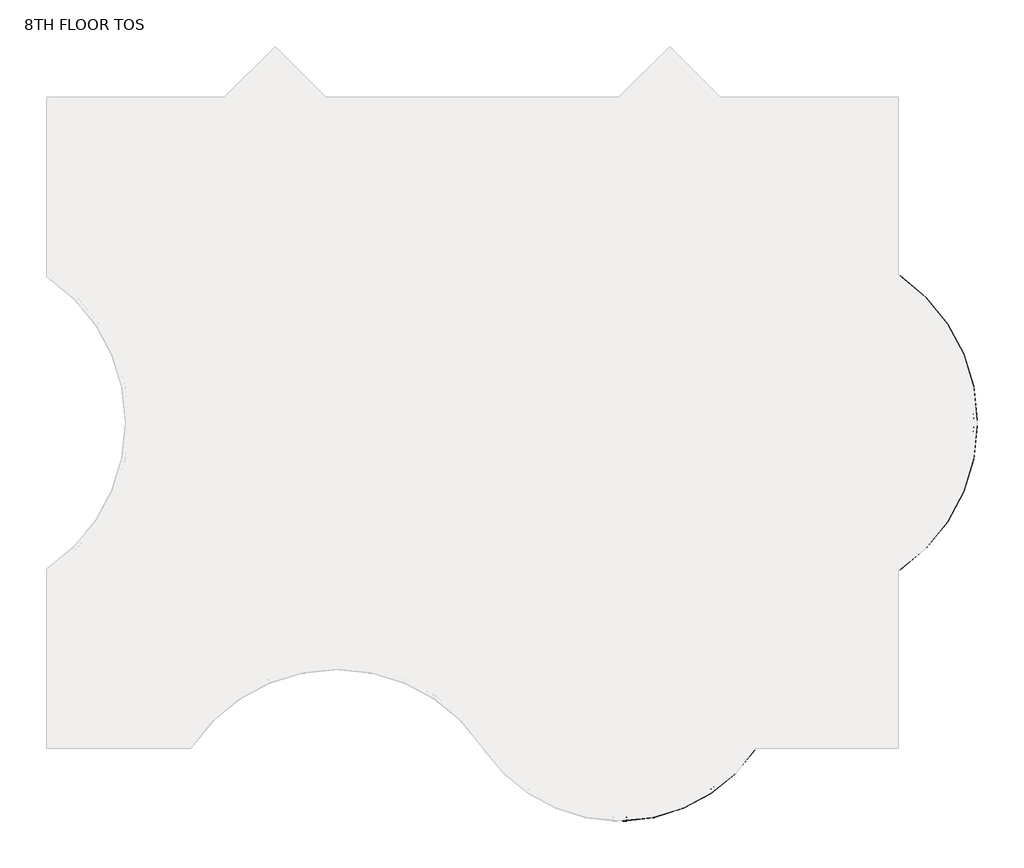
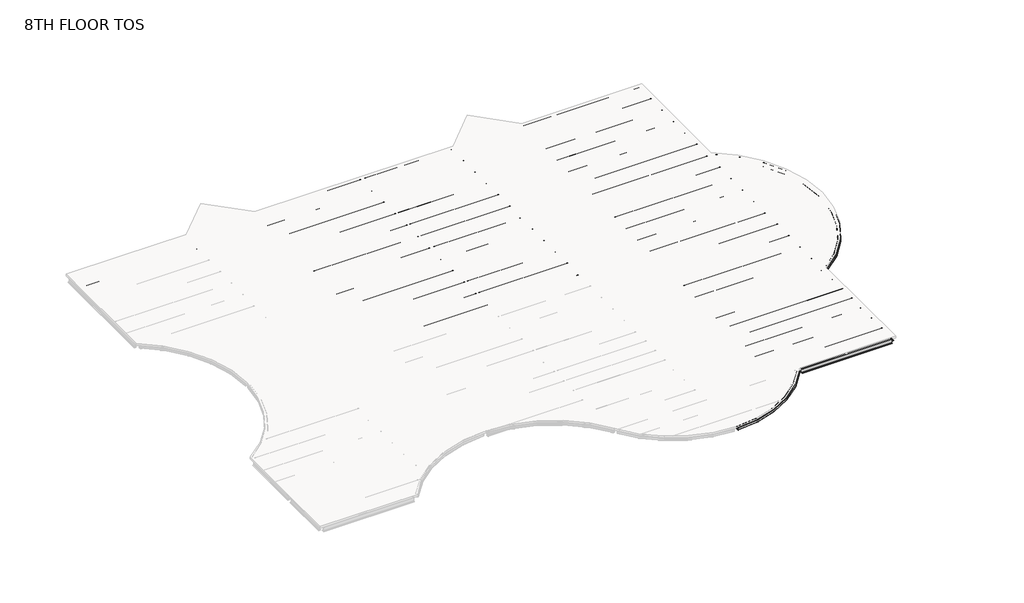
# One storey, part 2 of 2: 110 beams.
"""IFC4 building model written with IfcOpenShell, lengths in millimetres."""

from ifc_helpers import new_model, si_unit, origin, place, context, project, spatial, transform, mapped, element, save
from components import m_hss_square_hss203_2x203_2x9_5_28e91a4e, m_hss_square_hss203_2x203_2x9_5_f31329aa, m_hss_square_hss203_2x203_2x9_5_63507dff, ub_universal_beams_ub254x102x28_7812688d, ub_universal_beams_ub254x102x28_4a38c177, ub_universal_beams_ub305x165x40_c4d0385b, ub_universal_beams_ub305x165x40_19965e16, ub_universal_beams_ub305x165x40_d3abc31d, ub_universal_beams_ub305x165x40_0c73730f, ub_universal_beams_ub305x165x40_2a963f0c, ub_universal_beams_ub305x165x40_9ce7f2ee, ub_universal_beams_ub305x165x40_d184adfd, ub_universal_beams_ub305x165x40_bc7dc938, ub_universal_beams_ub305x165x40_b4233d25, ub_universal_beams_ub356x171x51_c708c058, ub_universal_beams_ub356x171x51_ef72dcdd, ub_universal_beams_ub356x171x51_10b3c54f, ub_universal_beams_ub356x171x51_4c9fd821, ub_universal_beams_ub356x171x51_d1a87c3c, ub_universal_beams_ub356x171x51_fa75724b, ub_universal_beams_ub356x171x51_68db896e, ub_universal_beams_ub356x171x51_c634c4a6, ub_universal_beams_ub356x171x51_995f1560, ub_universal_beams_ub356x171x51_dfc36663, ub_universal_beams_ub356x171x51_11d6b780, ub_universal_beams_ub356x171x51_76b2d20b, ub_universal_beams_ub356x171x51_145ecd4b, ub_universal_beams_ub356x171x51_c7dff8d2, ub_universal_beams_ub356x171x51_8a345439, ub_universal_beams_ub356x171x51_6da510e9, ub_universal_beams_ub356x171x51_e97f8d2e, ub_universal_beams_ub356x171x51_a38b99de, ub_universal_beams_ub356x171x51_d8f4cdde, ub_universal_beams_ub356x171x51_475301e6, ub_universal_beams_ub356x171x51_c03c70fb, ub_universal_beams_ub356x171x51_741bae58

model = new_model("IFC4")

# Units and contexts
model_context = context("Model", 3, world=origin())
ifc_project = project(units=[si_unit("LENGTHUNIT", "METRE", prefix="MILLI")], contexts=[model_context])

# Site, building, storey
site = spatial("IfcSite", under=ifc_project)
building = spatial("IfcBuilding", under=site)
storey = spatial("IfcBuildingStorey", under=building, Name="8TH FLOOR TOS", Elevation=36423.6)

# Beams
placement = place(None, origin())
m_hss_square_hss203_2x203_2x9_5_shape = m_hss_square_hss203_2x203_2x9_5_28e91a4e(model_context)
element("IfcBeam", 1, ObjectType="M_HSS Square : HSS203.2X203.2X9.5", at=placement, inside=storey, context=model_context, shape_type="MappedRepresentation", body=[
    mapped(m_hss_square_hss203_2x203_2x9_5_shape, transform((44027.575, 24539.575, 36322.1), x_axis=(0.8332810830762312, -0.5528495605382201, 0.0), y_axis=(0.5528495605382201, 0.8332810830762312, 0.0), z_axis=(0.0, 0.0, 1.0))),
])
m_hss_square_hss203_2x203_2x9_5_2_shape = m_hss_square_hss203_2x203_2x9_5_f31329aa(model_context)
element("IfcBeam", 2, ObjectType="M_HSS Square : HSS203.2X203.2X9.5", at=placement, inside=storey, context=model_context, shape_type="MappedRepresentation", body=[
    mapped(m_hss_square_hss203_2x203_2x9_5_2_shape, transform((44027.575, 9299.575, 36322.1), x_axis=(0.8332810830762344, 0.5528495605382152, 0.0), y_axis=(-0.5528495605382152, 0.8332810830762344, 0.0), z_axis=(0.0, 0.0, 1.0))),
])
m_hss_square_hss203_2x203_2x9_5_3_shape = m_hss_square_hss203_2x203_2x9_5_63507dff(model_context)
element("IfcBeam", 3, ObjectType="M_HSS Square : HSS203.2X203.2X9.5", at=placement, inside=storey, context=model_context, shape_type="MappedRepresentation", body=[
    mapped(m_hss_square_hss203_2x203_2x9_5_3_shape, transform((36716.575, 155.575, 36322.1), x_axis=(-0.5530174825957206, -0.8331696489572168, 0.0), y_axis=(0.8331696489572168, -0.5530174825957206, 0.0), z_axis=(0.0, 0.0, 1.0))),
])
ub_universal_beams_ub254x102x28_shape = ub_universal_beams_ub254x102x28_7812688d(model_context)
element("IfcBeam", 4, ObjectType="UB-Universal Beams : UB254x102x28", at=placement, inside=storey, context=model_context, shape_type="MappedRepresentation", body=[
    mapped(ub_universal_beams_ub254x102x28_shape, transform((10592.575, 34976.575, 36293.4), x_axis=(0.7071067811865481, 0.7071067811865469, 0.0), y_axis=(-0.7071067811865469, 0.7071067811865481, 0.0), z_axis=(0.0, 0.0, 1.0))),
])
element("IfcBeam", 5, ObjectType="UB-Universal Beams : UB254x102x28", at=placement, inside=storey, context=model_context, shape_type="MappedRepresentation", body=[
    mapped(ub_universal_beams_ub254x102x28_shape, transform((31004.575, 34976.575, 36293.4), x_axis=(0.7071067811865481, 0.7071067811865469, 0.0), y_axis=(-0.7071067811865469, 0.7071067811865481, 0.0), z_axis=(0.0, 0.0, 1.0))),
])
ub_universal_beams_ub254x102x28_2_shape = ub_universal_beams_ub254x102x28_4a38c177(model_context)
element("IfcBeam", 6, ObjectType="UB-Universal Beams : UB254x102x28", at=placement, inside=storey, context=model_context, shape_type="MappedRepresentation", body=[
    mapped(ub_universal_beams_ub254x102x28_2_shape, transform((13178.575, 34976.575, 36293.4), x_axis=(0.707106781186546, -0.707106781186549, 0.0), y_axis=(0.707106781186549, 0.707106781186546, 0.0), z_axis=(0.0, 0.0, 1.0))),
])
element("IfcBeam", 7, ObjectType="UB-Universal Beams : UB254x102x28", at=placement, inside=storey, context=model_context, shape_type="MappedRepresentation", body=[
    mapped(ub_universal_beams_ub254x102x28_2_shape, transform((33590.575, 34976.575, 36293.4), x_axis=(0.7071067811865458, -0.7071067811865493, 0.0), y_axis=(0.7071067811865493, 0.7071067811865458, 0.0), z_axis=(0.0, 0.0, 1.0))),
])
ub_universal_beams_ub305x165x40_shape = ub_universal_beams_ub305x165x40_c4d0385b(model_context)
element("IfcBeam", 8, ObjectType="UB-Universal Beams : UB305x165x40", at=placement, inside=storey, context=model_context, shape_type="MappedRepresentation", body=[
    mapped(ub_universal_beams_ub305x165x40_shape, transform((4727.575, 32159.575, 36271.9), x_axis=(1.0, 0.0, 0.0), y_axis=(0.0, 1.0, 0.0), z_axis=(0.0, 0.0, 1.0))),
])
element("IfcBeam", 9, ObjectType="UB-Universal Beams : UB305x165x40", at=placement, inside=storey, context=model_context, shape_type="MappedRepresentation", body=[
    mapped(ub_universal_beams_ub305x165x40_shape, transform((39455.575, 32159.575, 36271.9), x_axis=(1.0, 0.0, 0.0), y_axis=(0.0, 1.0, 0.0), z_axis=(0.0, 0.0, 1.0))),
])
element("IfcBeam", 10, ObjectType="UB-Universal Beams : UB305x165x40", at=placement, inside=storey, context=model_context, shape_type="MappedRepresentation", body=[
    mapped(ub_universal_beams_ub305x165x40_shape, transform((39455.575, 30635.575, 36271.9), x_axis=(1.0, 0.0, 0.0), y_axis=(0.0, 1.0, 0.0), z_axis=(0.0, 0.0, 1.0))),
])
element("IfcBeam", 11, ObjectType="UB-Universal Beams : UB305x165x40", at=placement, inside=storey, context=model_context, shape_type="MappedRepresentation", body=[
    mapped(ub_universal_beams_ub305x165x40_shape, transform((39455.575, 29111.575, 36271.9), x_axis=(1.0, 0.0, 0.0), y_axis=(0.0, 1.0, 0.0), z_axis=(0.0, 0.0, 1.0))),
])
element("IfcBeam", 12, ObjectType="UB-Universal Beams : UB305x165x40", at=placement, inside=storey, context=model_context, shape_type="MappedRepresentation", body=[
    mapped(ub_universal_beams_ub305x165x40_shape, transform((39455.575, 27587.575, 36271.9), x_axis=(1.0, 0.0, 0.0), y_axis=(0.0, 1.0, 0.0), z_axis=(0.0, 0.0, 1.0))),
])
element("IfcBeam", 13, ObjectType="UB-Universal Beams : UB305x165x40", at=placement, inside=storey, context=model_context, shape_type="MappedRepresentation", body=[
    mapped(ub_universal_beams_ub305x165x40_shape, transform((39455.575, 26063.575, 36271.9), x_axis=(1.0, 0.0, 0.0), y_axis=(0.0, 1.0, 0.0), z_axis=(0.0, 0.0, 1.0))),
])
element("IfcBeam", 14, ObjectType="UB-Universal Beams : UB305x165x40", at=placement, inside=storey, context=model_context, shape_type="MappedRepresentation", body=[
    mapped(ub_universal_beams_ub305x165x40_shape, transform((39455.575, 23015.575, 36271.9), x_axis=(1.0, 0.0, 0.0), y_axis=(0.0, 1.0, 0.0), z_axis=(0.0, 0.0, 1.0))),
])
element("IfcBeam", 15, ObjectType="UB-Universal Beams : UB305x165x40", at=placement, inside=storey, context=model_context, shape_type="MappedRepresentation", body=[
    mapped(ub_universal_beams_ub305x165x40_shape, transform((39455.575, 21491.575, 36271.9), x_axis=(1.0, 0.0, 0.0), y_axis=(0.0, 1.0, 0.0), z_axis=(0.0, 0.0, 1.0))),
])
element("IfcBeam", 16, ObjectType="UB-Universal Beams : UB305x165x40", at=placement, inside=storey, context=model_context, shape_type="MappedRepresentation", body=[
    mapped(ub_universal_beams_ub305x165x40_shape, transform((39455.575, 19967.575, 36271.9), x_axis=(1.0, 0.0, 0.0), y_axis=(0.0, 1.0, 0.0), z_axis=(0.0, 0.0, 1.0))),
])
element("IfcBeam", 17, ObjectType="UB-Universal Beams : UB305x165x40", at=placement, inside=storey, context=model_context, shape_type="MappedRepresentation", body=[
    mapped(ub_universal_beams_ub305x165x40_shape, transform((39455.575, 18443.575, 36271.9), x_axis=(1.0, 0.0, 0.0), y_axis=(0.0, 1.0, 0.0), z_axis=(0.0, 0.0, 1.0))),
])
element("IfcBeam", 18, ObjectType="UB-Universal Beams : UB305x165x40", at=placement, inside=storey, context=model_context, shape_type="MappedRepresentation", body=[
    mapped(ub_universal_beams_ub305x165x40_shape, transform((39455.575, 15395.575, 36271.9), x_axis=(1.0, 0.0, 0.0), y_axis=(0.0, 1.0, 0.0), z_axis=(0.0, 0.0, 1.0))),
])
element("IfcBeam", 19, ObjectType="UB-Universal Beams : UB305x165x40", at=placement, inside=storey, context=model_context, shape_type="MappedRepresentation", body=[
    mapped(ub_universal_beams_ub305x165x40_shape, transform((39455.575, 13871.575, 36271.9), x_axis=(1.0, 0.0, 0.0), y_axis=(0.0, 1.0, 0.0), z_axis=(0.0, 0.0, 1.0))),
])
element("IfcBeam", 20, ObjectType="UB-Universal Beams : UB305x165x40", at=placement, inside=storey, context=model_context, shape_type="MappedRepresentation", body=[
    mapped(ub_universal_beams_ub305x165x40_shape, transform((39455.575, 12347.575, 36271.9), x_axis=(1.0, 0.0, 0.0), y_axis=(0.0, 1.0, 0.0), z_axis=(0.0, 0.0, 1.0))),
])
element("IfcBeam", 21, ObjectType="UB-Universal Beams : UB305x165x40", at=placement, inside=storey, context=model_context, shape_type="MappedRepresentation", body=[
    mapped(ub_universal_beams_ub305x165x40_shape, transform((39455.575, 10823.575, 36271.9), x_axis=(1.0, 0.0, 0.0), y_axis=(0.0, 1.0, 0.0), z_axis=(0.0, 0.0, 1.0))),
])
element("IfcBeam", 22, ObjectType="UB-Universal Beams : UB305x165x40", at=placement, inside=storey, context=model_context, shape_type="MappedRepresentation", body=[
    mapped(ub_universal_beams_ub305x165x40_shape, transform((39455.575, 5508.325, 36271.9), x_axis=(-1.0, 0.0, 0.0), y_axis=(0.0, -1.0, 0.0), z_axis=(0.0, 0.0, 1.0))),
])
element("IfcBeam", 23, ObjectType="UB-Universal Beams : UB305x165x40", at=placement, inside=storey, context=model_context, shape_type="MappedRepresentation", body=[
    mapped(ub_universal_beams_ub305x165x40_shape, transform((39455.575, 6772.075, 36271.9), x_axis=(-1.0, 0.0, 0.0), y_axis=(0.0, -1.0, 0.0), z_axis=(0.0, 0.0, 1.0))),
])
element("IfcBeam", 24, ObjectType="UB-Universal Beams : UB305x165x40", at=placement, inside=storey, context=model_context, shape_type="MappedRepresentation", body=[
    mapped(ub_universal_beams_ub305x165x40_shape, transform((39455.575, 8035.825, 36271.9), x_axis=(-1.0, 0.0, 0.0), y_axis=(0.0, -1.0, 0.0), z_axis=(0.0, 0.0, 1.0))),
])
element("IfcBeam", 25, ObjectType="UB-Universal Beams : UB305x165x40", at=placement, inside=storey, context=model_context, shape_type="MappedRepresentation", body=[
    mapped(ub_universal_beams_ub305x165x40_shape, transform((39455.575, 1518.575, 36271.9), x_axis=(-1.0, 0.0, 0.0), y_axis=(0.0, -1.0, 0.0), z_axis=(0.0, 0.0, 1.0))),
])
element("IfcBeam", 26, ObjectType="UB-Universal Beams : UB305x165x40", at=placement, inside=storey, context=model_context, shape_type="MappedRepresentation", body=[
    mapped(ub_universal_beams_ub305x165x40_shape, transform((39455.575, 2881.575, 36271.9), x_axis=(-1.0, 0.0, 0.0), y_axis=(0.0, -1.0, 0.0), z_axis=(0.0, 0.0, 1.0))),
])
ub_universal_beams_ub305x165x40_2_shape = ub_universal_beams_ub305x165x40_19965e16(model_context)
element("IfcBeam", 27, ObjectType="UB-Universal Beams : UB305x165x40", at=placement, inside=storey, context=model_context, shape_type="MappedRepresentation", body=[
    mapped(ub_universal_beams_ub305x165x40_2_shape, transform((11885.575, 34803.325, 36271.9), x_axis=(1.0, 0.0, 0.0), y_axis=(0.0, 1.0, 0.0), z_axis=(0.0, 0.0, 1.0))),
])
element("IfcBeam", 28, ObjectType="UB-Universal Beams : UB305x165x40", at=placement, inside=storey, context=model_context, shape_type="MappedRepresentation", body=[
    mapped(ub_universal_beams_ub305x165x40_2_shape, transform((32297.575, 34803.325, 36271.9), x_axis=(1.0, 0.0, 0.0), y_axis=(0.0, 1.0, 0.0), z_axis=(0.0, 0.0, 1.0))),
])
ub_universal_beams_ub305x165x40_3_shape = ub_universal_beams_ub305x165x40_d3abc31d(model_context)
element("IfcBeam", 29, ObjectType="UB-Universal Beams : UB305x165x40", at=placement, inside=storey, context=model_context, shape_type="MappedRepresentation", body=[
    mapped(ub_universal_beams_ub305x165x40_3_shape, transform((11885.575, 33337.075, 36271.9), x_axis=(1.0, 0.0, 0.0), y_axis=(0.0, 1.0, 0.0), z_axis=(0.0, 0.0, 1.0))),
])
element("IfcBeam", 30, ObjectType="UB-Universal Beams : UB305x165x40", at=placement, inside=storey, context=model_context, shape_type="MappedRepresentation", body=[
    mapped(ub_universal_beams_ub305x165x40_3_shape, transform((11885.575, 31870.825, 36271.9), x_axis=(1.0, 0.0, 0.0), y_axis=(0.0, 1.0, 0.0), z_axis=(0.0, 0.0, 1.0))),
])
element("IfcBeam", 31, ObjectType="UB-Universal Beams : UB305x165x40", at=placement, inside=storey, context=model_context, shape_type="MappedRepresentation", body=[
    mapped(ub_universal_beams_ub305x165x40_3_shape, transform((11885.575, 30404.575, 36271.9), x_axis=(1.0, 0.0, 0.0), y_axis=(0.0, 1.0, 0.0), z_axis=(0.0, 0.0, 1.0))),
])
element("IfcBeam", 32, ObjectType="UB-Universal Beams : UB305x165x40", at=placement, inside=storey, context=model_context, shape_type="MappedRepresentation", body=[
    mapped(ub_universal_beams_ub305x165x40_3_shape, transform((32297.575, 33337.075, 36271.9), x_axis=(1.0, 0.0, 0.0), y_axis=(0.0, 1.0, 0.0), z_axis=(0.0, 0.0, 1.0))),
])
element("IfcBeam", 33, ObjectType="UB-Universal Beams : UB305x165x40", at=placement, inside=storey, context=model_context, shape_type="MappedRepresentation", body=[
    mapped(ub_universal_beams_ub305x165x40_3_shape, transform((32297.575, 31870.825, 36271.9), x_axis=(1.0, 0.0, 0.0), y_axis=(0.0, 1.0, 0.0), z_axis=(0.0, 0.0, 1.0))),
])
element("IfcBeam", 34, ObjectType="UB-Universal Beams : UB305x165x40", at=placement, inside=storey, context=model_context, shape_type="MappedRepresentation", body=[
    mapped(ub_universal_beams_ub305x165x40_3_shape, transform((32297.575, 30404.575, 36271.9), x_axis=(1.0, 0.0, 0.0), y_axis=(0.0, 1.0, 0.0), z_axis=(0.0, 0.0, 1.0))),
])
element("IfcBeam", 35, ObjectType="UB-Universal Beams : UB305x165x40", at=placement, inside=storey, context=model_context, shape_type="MappedRepresentation", body=[
    mapped(ub_universal_beams_ub305x165x40_3_shape, transform((32297.575, 28938.325, 36271.9), x_axis=(1.0, 0.0, 0.0), y_axis=(0.0, 1.0, 0.0), z_axis=(0.0, 0.0, 1.0))),
])
element("IfcBeam", 36, ObjectType="UB-Universal Beams : UB305x165x40", at=placement, inside=storey, context=model_context, shape_type="MappedRepresentation", body=[
    mapped(ub_universal_beams_ub305x165x40_3_shape, transform((32297.575, 27472.075, 36271.9), x_axis=(1.0, 0.0, 0.0), y_axis=(0.0, 1.0, 0.0), z_axis=(0.0, 0.0, 1.0))),
])
element("IfcBeam", 37, ObjectType="UB-Universal Beams : UB305x165x40", at=placement, inside=storey, context=model_context, shape_type="MappedRepresentation", body=[
    mapped(ub_universal_beams_ub305x165x40_3_shape, transform((32297.575, 26005.825, 36271.9), x_axis=(1.0, 0.0, 0.0), y_axis=(0.0, 1.0, 0.0), z_axis=(0.0, 0.0, 1.0))),
])
element("IfcBeam", 38, ObjectType="UB-Universal Beams : UB305x165x40", at=placement, inside=storey, context=model_context, shape_type="MappedRepresentation", body=[
    mapped(ub_universal_beams_ub305x165x40_3_shape, transform((32297.575, 1518.575, 36271.9), x_axis=(-1.0, 0.0, 0.0), y_axis=(0.0, -1.0, 0.0), z_axis=(0.0, 0.0, 1.0))),
])
element("IfcBeam", 39, ObjectType="UB-Universal Beams : UB305x165x40", at=placement, inside=storey, context=model_context, shape_type="MappedRepresentation", body=[
    mapped(ub_universal_beams_ub305x165x40_3_shape, transform((32297.575, 2881.575, 36271.9), x_axis=(-1.0, 0.0, 0.0), y_axis=(0.0, -1.0, 0.0), z_axis=(0.0, 0.0, 1.0))),
])
element("IfcBeam", 40, ObjectType="UB-Universal Beams : UB305x165x40", at=placement, inside=storey, context=model_context, shape_type="MappedRepresentation", body=[
    mapped(ub_universal_beams_ub305x165x40_3_shape, transform((32297.575, 5508.325, 36271.9), x_axis=(-1.0, 0.0, 0.0), y_axis=(0.0, -1.0, 0.0), z_axis=(0.0, 0.0, 1.0))),
])
element("IfcBeam", 41, ObjectType="UB-Universal Beams : UB305x165x40", at=placement, inside=storey, context=model_context, shape_type="MappedRepresentation", body=[
    mapped(ub_universal_beams_ub305x165x40_3_shape, transform((32297.575, 6772.075, 36271.9), x_axis=(-1.0, 0.0, 0.0), y_axis=(0.0, -1.0, 0.0), z_axis=(0.0, 0.0, 1.0))),
])
element("IfcBeam", 42, ObjectType="UB-Universal Beams : UB305x165x40", at=placement, inside=storey, context=model_context, shape_type="MappedRepresentation", body=[
    mapped(ub_universal_beams_ub305x165x40_3_shape, transform((32297.575, 8035.825, 36271.9), x_axis=(-1.0, 0.0, 0.0), y_axis=(0.0, -1.0, 0.0), z_axis=(0.0, 0.0, 1.0))),
])
element("IfcBeam", 43, ObjectType="UB-Universal Beams : UB305x165x40", at=placement, inside=storey, context=model_context, shape_type="MappedRepresentation", body=[
    mapped(ub_universal_beams_ub305x165x40_3_shape, transform((32297.575, 15395.575, 36271.9), x_axis=(1.0, 0.0, 0.0), y_axis=(0.0, 1.0, 0.0), z_axis=(0.0, 0.0, 1.0))),
])
element("IfcBeam", 44, ObjectType="UB-Universal Beams : UB305x165x40", at=placement, inside=storey, context=model_context, shape_type="MappedRepresentation", body=[
    mapped(ub_universal_beams_ub305x165x40_3_shape, transform((32297.575, 13871.575, 36271.9), x_axis=(1.0, 0.0, 0.0), y_axis=(0.0, 1.0, 0.0), z_axis=(0.0, 0.0, 1.0))),
])
element("IfcBeam", 45, ObjectType="UB-Universal Beams : UB305x165x40", at=placement, inside=storey, context=model_context, shape_type="MappedRepresentation", body=[
    mapped(ub_universal_beams_ub305x165x40_3_shape, transform((32297.575, 12347.575, 36271.9), x_axis=(1.0, 0.0, 0.0), y_axis=(0.0, 1.0, 0.0), z_axis=(0.0, 0.0, 1.0))),
])
element("IfcBeam", 46, ObjectType="UB-Universal Beams : UB305x165x40", at=placement, inside=storey, context=model_context, shape_type="MappedRepresentation", body=[
    mapped(ub_universal_beams_ub305x165x40_3_shape, transform((32297.575, 10823.575, 36271.9), x_axis=(1.0, 0.0, 0.0), y_axis=(0.0, 1.0, 0.0), z_axis=(0.0, 0.0, 1.0))),
])
element("IfcBeam", 47, ObjectType="UB-Universal Beams : UB305x165x40", at=placement, inside=storey, context=model_context, shape_type="MappedRepresentation", body=[
    mapped(ub_universal_beams_ub305x165x40_3_shape, transform((32297.575, 23015.575, 36271.9), x_axis=(1.0, 0.0, 0.0), y_axis=(0.0, 1.0, 0.0), z_axis=(0.0, 0.0, 1.0))),
])
element("IfcBeam", 48, ObjectType="UB-Universal Beams : UB305x165x40", at=placement, inside=storey, context=model_context, shape_type="MappedRepresentation", body=[
    mapped(ub_universal_beams_ub305x165x40_3_shape, transform((32297.575, 21491.575, 36271.9), x_axis=(1.0, 0.0, 0.0), y_axis=(0.0, 1.0, 0.0), z_axis=(0.0, 0.0, 1.0))),
])
element("IfcBeam", 49, ObjectType="UB-Universal Beams : UB305x165x40", at=placement, inside=storey, context=model_context, shape_type="MappedRepresentation", body=[
    mapped(ub_universal_beams_ub305x165x40_3_shape, transform((32297.575, 19967.575, 36271.9), x_axis=(1.0, 0.0, 0.0), y_axis=(0.0, 1.0, 0.0), z_axis=(0.0, 0.0, 1.0))),
])
element("IfcBeam", 50, ObjectType="UB-Universal Beams : UB305x165x40", at=placement, inside=storey, context=model_context, shape_type="MappedRepresentation", body=[
    mapped(ub_universal_beams_ub305x165x40_3_shape, transform((32297.575, 18443.575, 36271.9), x_axis=(1.0, 0.0, 0.0), y_axis=(0.0, 1.0, 0.0), z_axis=(0.0, 0.0, 1.0))),
])
ub_universal_beams_ub305x165x40_4_shape = ub_universal_beams_ub305x165x40_0c73730f(model_context)
element("IfcBeam", 51, ObjectType="UB-Universal Beams : UB305x165x40", at=placement, inside=storey, context=model_context, shape_type="MappedRepresentation", body=[
    mapped(ub_universal_beams_ub305x165x40_4_shape, transform((18591.075, 32159.575, 36271.9), x_axis=(1.0, 0.0, 0.0), y_axis=(0.0, 1.0, 0.0), z_axis=(0.0, 0.0, 1.0))),
])
element("IfcBeam", 52, ObjectType="UB-Universal Beams : UB305x165x40", at=placement, inside=storey, context=model_context, shape_type="MappedRepresentation", body=[
    mapped(ub_universal_beams_ub305x165x40_4_shape, transform((18591.075, 30635.575, 36271.9), x_axis=(1.0, 0.0, 0.0), y_axis=(0.0, 1.0, 0.0), z_axis=(0.0, 0.0, 1.0))),
])
element("IfcBeam", 53, ObjectType="UB-Universal Beams : UB305x165x40", at=placement, inside=storey, context=model_context, shape_type="MappedRepresentation", body=[
    mapped(ub_universal_beams_ub305x165x40_4_shape, transform((18591.075, 29111.575, 36271.9), x_axis=(1.0, 0.0, 0.0), y_axis=(0.0, 1.0, 0.0), z_axis=(0.0, 0.0, 1.0))),
])
element("IfcBeam", 54, ObjectType="UB-Universal Beams : UB305x165x40", at=placement, inside=storey, context=model_context, shape_type="MappedRepresentation", body=[
    mapped(ub_universal_beams_ub305x165x40_4_shape, transform((18591.075, 27587.575, 36271.9), x_axis=(1.0, 0.0, 0.0), y_axis=(0.0, 1.0, 0.0), z_axis=(0.0, 0.0, 1.0))),
])
element("IfcBeam", 55, ObjectType="UB-Universal Beams : UB305x165x40", at=placement, inside=storey, context=model_context, shape_type="MappedRepresentation", body=[
    mapped(ub_universal_beams_ub305x165x40_4_shape, transform((18591.075, 26063.575, 36271.9), x_axis=(1.0, 0.0, 0.0), y_axis=(0.0, 1.0, 0.0), z_axis=(0.0, 0.0, 1.0))),
])
element("IfcBeam", 56, ObjectType="UB-Universal Beams : UB305x165x40", at=placement, inside=storey, context=model_context, shape_type="MappedRepresentation", body=[
    mapped(ub_universal_beams_ub305x165x40_4_shape, transform((18591.075, 23015.575, 36271.9), x_axis=(1.0, 0.0, 0.0), y_axis=(0.0, 1.0, 0.0), z_axis=(0.0, 0.0, 1.0))),
])
element("IfcBeam", 57, ObjectType="UB-Universal Beams : UB305x165x40", at=placement, inside=storey, context=model_context, shape_type="MappedRepresentation", body=[
    mapped(ub_universal_beams_ub305x165x40_4_shape, transform((18591.075, 21491.575, 36271.9), x_axis=(1.0, 0.0, 0.0), y_axis=(0.0, 1.0, 0.0), z_axis=(0.0, 0.0, 1.0))),
])
element("IfcBeam", 58, ObjectType="UB-Universal Beams : UB305x165x40", at=placement, inside=storey, context=model_context, shape_type="MappedRepresentation", body=[
    mapped(ub_universal_beams_ub305x165x40_4_shape, transform((18591.075, 19967.575, 36271.9), x_axis=(1.0, 0.0, 0.0), y_axis=(0.0, 1.0, 0.0), z_axis=(0.0, 0.0, 1.0))),
])
element("IfcBeam", 59, ObjectType="UB-Universal Beams : UB305x165x40", at=placement, inside=storey, context=model_context, shape_type="MappedRepresentation", body=[
    mapped(ub_universal_beams_ub305x165x40_4_shape, transform((18591.075, 18443.575, 36271.9), x_axis=(1.0, 0.0, 0.0), y_axis=(0.0, 1.0, 0.0), z_axis=(0.0, 0.0, 1.0))),
])
ub_universal_beams_ub305x165x40_5_shape = ub_universal_beams_ub305x165x40_2a963f0c(model_context)
element("IfcBeam", 60, ObjectType="UB-Universal Beams : UB305x165x40", at=placement, inside=storey, context=model_context, shape_type="MappedRepresentation", body=[
    mapped(ub_universal_beams_ub305x165x40_5_shape, transform((26211.075, 32159.575, 36271.9), x_axis=(1.0, 0.0, 0.0), y_axis=(0.0, 1.0, 0.0), z_axis=(0.0, 0.0, 1.0))),
])
element("IfcBeam", 61, ObjectType="UB-Universal Beams : UB305x165x40", at=placement, inside=storey, context=model_context, shape_type="MappedRepresentation", body=[
    mapped(ub_universal_beams_ub305x165x40_5_shape, transform((26211.075, 30635.575, 36271.9), x_axis=(1.0, 0.0, 0.0), y_axis=(0.0, 1.0, 0.0), z_axis=(0.0, 0.0, 1.0))),
])
element("IfcBeam", 62, ObjectType="UB-Universal Beams : UB305x165x40", at=placement, inside=storey, context=model_context, shape_type="MappedRepresentation", body=[
    mapped(ub_universal_beams_ub305x165x40_5_shape, transform((26211.075, 29111.575, 36271.9), x_axis=(1.0, 0.0, 0.0), y_axis=(0.0, 1.0, 0.0), z_axis=(0.0, 0.0, 1.0))),
])
element("IfcBeam", 63, ObjectType="UB-Universal Beams : UB305x165x40", at=placement, inside=storey, context=model_context, shape_type="MappedRepresentation", body=[
    mapped(ub_universal_beams_ub305x165x40_5_shape, transform((26211.075, 27587.575, 36271.9), x_axis=(1.0, 0.0, 0.0), y_axis=(0.0, 1.0, 0.0), z_axis=(0.0, 0.0, 1.0))),
])
element("IfcBeam", 64, ObjectType="UB-Universal Beams : UB305x165x40", at=placement, inside=storey, context=model_context, shape_type="MappedRepresentation", body=[
    mapped(ub_universal_beams_ub305x165x40_5_shape, transform((26211.075, 26063.575, 36271.9), x_axis=(1.0, 0.0, 0.0), y_axis=(0.0, 1.0, 0.0), z_axis=(0.0, 0.0, 1.0))),
])
element("IfcBeam", 65, ObjectType="UB-Universal Beams : UB305x165x40", at=placement, inside=storey, context=model_context, shape_type="MappedRepresentation", body=[
    mapped(ub_universal_beams_ub305x165x40_5_shape, transform((26211.075, 23015.575, 36271.9), x_axis=(1.0, 0.0, 0.0), y_axis=(0.0, 1.0, 0.0), z_axis=(0.0, 0.0, 1.0))),
])
element("IfcBeam", 66, ObjectType="UB-Universal Beams : UB305x165x40", at=placement, inside=storey, context=model_context, shape_type="MappedRepresentation", body=[
    mapped(ub_universal_beams_ub305x165x40_5_shape, transform((26211.075, 21491.575, 36271.9), x_axis=(1.0, 0.0, 0.0), y_axis=(0.0, 1.0, 0.0), z_axis=(0.0, 0.0, 1.0))),
])
element("IfcBeam", 67, ObjectType="UB-Universal Beams : UB305x165x40", at=placement, inside=storey, context=model_context, shape_type="MappedRepresentation", body=[
    mapped(ub_universal_beams_ub305x165x40_5_shape, transform((26211.075, 19967.575, 36271.9), x_axis=(1.0, 0.0, 0.0), y_axis=(0.0, 1.0, 0.0), z_axis=(0.0, 0.0, 1.0))),
])
element("IfcBeam", 68, ObjectType="UB-Universal Beams : UB305x165x40", at=placement, inside=storey, context=model_context, shape_type="MappedRepresentation", body=[
    mapped(ub_universal_beams_ub305x165x40_5_shape, transform((26211.075, 18443.575, 36271.9), x_axis=(1.0, 0.0, 0.0), y_axis=(0.0, 1.0, 0.0), z_axis=(0.0, 0.0, 1.0))),
])
ub_universal_beams_ub305x165x40_6_shape = ub_universal_beams_ub305x165x40_9ce7f2ee(model_context)
element("IfcBeam", 69, ObjectType="UB-Universal Beams : UB305x165x40", at=placement, inside=storey, context=model_context, shape_type="MappedRepresentation", body=[
    mapped(ub_universal_beams_ub305x165x40_6_shape, transform((44907.9405309, 23015.575, 36271.9), x_axis=(1.0, 0.0, 0.0), y_axis=(0.0, 1.0, 0.0), z_axis=(0.0, 0.0, 1.0))),
])
element("IfcBeam", 70, ObjectType="UB-Universal Beams : UB305x165x40", at=placement, inside=storey, context=model_context, shape_type="MappedRepresentation", body=[
    mapped(ub_universal_beams_ub305x165x40_6_shape, transform((44907.9405309, 10823.575, 36271.9), x_axis=(1.0, 0.0, 0.0), y_axis=(0.0, 1.0, 0.0), z_axis=(0.0, 0.0, 1.0))),
])
ub_universal_beams_ub305x165x40_7_shape = ub_universal_beams_ub305x165x40_d184adfd(model_context)
element("IfcBeam", 71, ObjectType="UB-Universal Beams : UB305x165x40", at=placement, inside=storey, context=model_context, shape_type="MappedRepresentation", body=[
    mapped(ub_universal_beams_ub305x165x40_7_shape, transform((45459.5874928, 21491.575, 36271.9), x_axis=(1.0, 0.0, 0.0), y_axis=(0.0, 1.0, 0.0), z_axis=(0.0, 0.0, 1.0))),
])
element("IfcBeam", 72, ObjectType="UB-Universal Beams : UB305x165x40", at=placement, inside=storey, context=model_context, shape_type="MappedRepresentation", body=[
    mapped(ub_universal_beams_ub305x165x40_7_shape, transform((45459.5874928, 12347.575, 36271.9), x_axis=(1.0, 0.0, 0.0), y_axis=(0.0, 1.0, 0.0), z_axis=(0.0, 0.0, 1.0))),
])
ub_universal_beams_ub305x165x40_8_shape = ub_universal_beams_ub305x165x40_bc7dc938(model_context)
element("IfcBeam", 73, ObjectType="UB-Universal Beams : UB305x165x40", at=placement, inside=storey, context=model_context, shape_type="MappedRepresentation", body=[
    mapped(ub_universal_beams_ub305x165x40_8_shape, transform((45810.6153272, 19967.575, 36271.9), x_axis=(1.0, 0.0, 0.0), y_axis=(0.0, 1.0, 0.0), z_axis=(0.0, 0.0, 1.0))),
])
element("IfcBeam", 74, ObjectType="UB-Universal Beams : UB305x165x40", at=placement, inside=storey, context=model_context, shape_type="MappedRepresentation", body=[
    mapped(ub_universal_beams_ub305x165x40_8_shape, transform((45810.6153272, 13871.575, 36271.9), x_axis=(1.0, 0.0, 0.0), y_axis=(0.0, 1.0, 0.0), z_axis=(0.0, 0.0, 1.0))),
])
ub_universal_beams_ub305x165x40_9_shape = ub_universal_beams_ub305x165x40_b4233d25(model_context)
element("IfcBeam", 75, ObjectType="UB-Universal Beams : UB305x165x40", at=placement, inside=storey, context=model_context, shape_type="MappedRepresentation", body=[
    mapped(ub_universal_beams_ub305x165x40_9_shape, transform((46008.1318611, 18443.575, 36271.9), x_axis=(1.0, 0.0, 0.0), y_axis=(0.0, 1.0, 0.0), z_axis=(0.0, 0.0, 1.0))),
])
element("IfcBeam", 76, ObjectType="UB-Universal Beams : UB305x165x40", at=placement, inside=storey, context=model_context, shape_type="MappedRepresentation", body=[
    mapped(ub_universal_beams_ub305x165x40_9_shape, transform((46008.1318611, 15395.575, 36271.9), x_axis=(1.0, 0.0, 0.0), y_axis=(0.0, 1.0, 0.0), z_axis=(0.0, 0.0, 1.0))),
])
ub_universal_beams_ub356x171x51_shape = ub_universal_beams_ub356x171x51_c708c058(model_context)
element("IfcBeam", 77, ObjectType="UB-Universal Beams : UB356x171x51", at=placement, inside=storey, context=model_context, shape_type="MappedRepresentation", body=[
    mapped(ub_universal_beams_ub356x171x51_shape, transform((2200.075, 33683.575, 36246.1), x_axis=(1.0, 0.0, 0.0), y_axis=(0.0, 1.0, 0.0), z_axis=(0.0, 0.0, 1.0))),
])
ub_universal_beams_ub356x171x51_2_shape = ub_universal_beams_ub356x171x51_ef72dcdd(model_context)
element("IfcBeam", 78, ObjectType="UB-Universal Beams : UB356x171x51", at=placement, inside=storey, context=model_context, shape_type="MappedRepresentation", body=[
    mapped(ub_universal_beams_ub356x171x51_2_shape, transform((6772.075, 33683.575, 36246.1), x_axis=(1.0, 0.0, 0.0), y_axis=(0.0, 1.0, 0.0), z_axis=(0.0, 0.0, 1.0))),
])
element("IfcBeam", 79, ObjectType="UB-Universal Beams : UB356x171x51", at=placement, inside=storey, context=model_context, shape_type="MappedRepresentation", body=[
    mapped(ub_universal_beams_ub356x171x51_2_shape, transform((34883.575, 6772.075, 36246.1), x_axis=(0.0, -1.0, 0.0), y_axis=(1.0, 0.0, 0.0), z_axis=(0.0, 0.0, 1.0))),
])
ub_universal_beams_ub356x171x51_3_shape = ub_universal_beams_ub356x171x51_10b3c54f(model_context)
element("IfcBeam", 80, ObjectType="UB-Universal Beams : UB356x171x51", at=placement, inside=storey, context=model_context, shape_type="MappedRepresentation", body=[
    mapped(ub_universal_beams_ub356x171x51_3_shape, transform((18591.075, 33683.575, 36246.1), x_axis=(1.0, 0.0, 0.0), y_axis=(0.0, 1.0, 0.0), z_axis=(0.0, 0.0, 1.0))),
])
ub_universal_beams_ub356x171x51_4_shape = ub_universal_beams_ub356x171x51_4c9fd821(model_context)
element("IfcBeam", 81, ObjectType="UB-Universal Beams : UB356x171x51", at=placement, inside=storey, context=model_context, shape_type="MappedRepresentation", body=[
    mapped(ub_universal_beams_ub356x171x51_4_shape, transform((26211.075, 33683.575, 36246.1), x_axis=(1.0, 0.0, 0.0), y_axis=(0.0, 1.0, 0.0), z_axis=(0.0, 0.0, 1.0))),
])
ub_universal_beams_ub356x171x51_5_shape = ub_universal_beams_ub356x171x51_d1a87c3c(model_context)
element("IfcBeam", 82, ObjectType="UB-Universal Beams : UB356x171x51", at=placement, inside=storey, context=model_context, shape_type="MappedRepresentation", body=[
    mapped(ub_universal_beams_ub356x171x51_5_shape, transform((39455.575, 33683.575, 36246.1), x_axis=(1.0, 0.0, 0.0), y_axis=(0.0, 1.0, 0.0), z_axis=(0.0, 0.0, 1.0))),
])
ub_universal_beams_ub356x171x51_6_shape = ub_universal_beams_ub356x171x51_fa75724b(model_context)
element("IfcBeam", 83, ObjectType="UB-Universal Beams : UB356x171x51", at=placement, inside=storey, context=model_context, shape_type="MappedRepresentation", body=[
    mapped(ub_universal_beams_ub356x171x51_6_shape, transform((44027.575, 29111.575, 36246.1), x_axis=(0.0, -1.0, 0.0), y_axis=(1.0, 0.0, 0.0), z_axis=(0.0, 0.0, 1.0))),
])
ub_universal_beams_ub356x171x51_7_shape = ub_universal_beams_ub356x171x51_68db896e(model_context)
element("IfcBeam", 84, ObjectType="UB-Universal Beams : UB356x171x51", at=placement, inside=storey, context=model_context, shape_type="MappedRepresentation", body=[
    mapped(ub_universal_beams_ub356x171x51_7_shape, transform((44027.575, 6772.075, 36246.1), x_axis=(0.0, -1.0, 0.0), y_axis=(1.0, 0.0, 0.0), z_axis=(0.0, 0.0, 1.0))),
])
ub_universal_beams_ub356x171x51_8_shape = ub_universal_beams_ub356x171x51_c634c4a6(model_context)
element("IfcBeam", 85, ObjectType="UB-Universal Beams : UB356x171x51", at=placement, inside=storey, context=model_context, shape_type="MappedRepresentation", body=[
    mapped(ub_universal_beams_ub356x171x51_8_shape, transform((44027.575, 2200.075, 36246.1), x_axis=(0.0, -1.0, 0.0), y_axis=(1.0, 0.0, 0.0), z_axis=(0.0, 0.0, 1.0))),
])
ub_universal_beams_ub356x171x51_9_shape = ub_universal_beams_ub356x171x51_995f1560(model_context)
element("IfcBeam", 86, ObjectType="UB-Universal Beams : UB356x171x51", at=placement, inside=storey, context=model_context, shape_type="MappedRepresentation", body=[
    mapped(ub_universal_beams_ub356x171x51_9_shape, transform((40372.075, 155.575, 36246.1), x_axis=(-1.0, 0.0, 0.0), y_axis=(0.0, -1.0, 0.0), z_axis=(0.0, 0.0, 1.0))),
])
ub_universal_beams_ub356x171x51_10_shape = ub_universal_beams_ub356x171x51_dfc36663(model_context)
element("IfcBeam", 87, ObjectType="UB-Universal Beams : UB356x171x51", at=placement, inside=storey, context=model_context, shape_type="MappedRepresentation", body=[
    mapped(ub_universal_beams_ub356x171x51_10_shape, transform((46072.075, 16919.575, 36246.1), x_axis=(1.0, 0.0, 0.0), y_axis=(0.0, 1.0, 0.0), z_axis=(0.0, 0.0, 1.0))),
])
ub_universal_beams_ub356x171x51_11_shape = ub_universal_beams_ub356x171x51_11d6b780(model_context)
element("IfcBeam", 88, ObjectType="UB-Universal Beams : UB356x171x51", at=placement, inside=storey, context=model_context, shape_type="MappedRepresentation", body=[
    mapped(ub_universal_beams_ub356x171x51_11_shape, transform((32297.575, 24539.575, 36246.1), x_axis=(1.0, 0.0, 0.0), y_axis=(0.0, 1.0, 0.0), z_axis=(0.0, 0.0, 1.0))),
])
element("IfcBeam", 89, ObjectType="UB-Universal Beams : UB356x171x51", at=placement, inside=storey, context=model_context, shape_type="MappedRepresentation", body=[
    mapped(ub_universal_beams_ub356x171x51_11_shape, transform((32297.575, 9299.575, 36246.1), x_axis=(-1.0, 0.0, 0.0), y_axis=(0.0, -1.0, 0.0), z_axis=(0.0, 0.0, 1.0))),
])
element("IfcBeam", 90, ObjectType="UB-Universal Beams : UB356x171x51", at=placement, inside=storey, context=model_context, shape_type="MappedRepresentation", body=[
    mapped(ub_universal_beams_ub356x171x51_11_shape, transform((32297.575, 16919.575, 36246.1), x_axis=(1.0, 0.0, 0.0), y_axis=(0.0, 1.0, 0.0), z_axis=(0.0, 0.0, 1.0))),
])
element("IfcBeam", 91, ObjectType="UB-Universal Beams : UB356x171x51", at=placement, inside=storey, context=model_context, shape_type="MappedRepresentation", body=[
    mapped(ub_universal_beams_ub356x171x51_11_shape, transform((32297.575, 4244.575, 36246.1), x_axis=(-1.0, 0.0, 0.0), y_axis=(0.0, -1.0, 0.0), z_axis=(0.0, 0.0, 1.0))),
])
ub_universal_beams_ub356x171x51_12_shape = ub_universal_beams_ub356x171x51_76b2d20b(model_context)
element("IfcBeam", 92, ObjectType="UB-Universal Beams : UB356x171x51", at=placement, inside=storey, context=model_context, shape_type="MappedRepresentation", body=[
    mapped(ub_universal_beams_ub356x171x51_12_shape, transform((18591.075, 24539.575, 36246.1), x_axis=(1.0, 0.0, 0.0), y_axis=(0.0, 1.0, 0.0), z_axis=(0.0, 0.0, 1.0))),
])
element("IfcBeam", 93, ObjectType="UB-Universal Beams : UB356x171x51", at=placement, inside=storey, context=model_context, shape_type="MappedRepresentation", body=[
    mapped(ub_universal_beams_ub356x171x51_12_shape, transform((18591.075, 16919.575, 36246.1), x_axis=(1.0, 0.0, 0.0), y_axis=(0.0, 1.0, 0.0), z_axis=(0.0, 0.0, 1.0))),
])
ub_universal_beams_ub356x171x51_13_shape = ub_universal_beams_ub356x171x51_145ecd4b(model_context)
element("IfcBeam", 94, ObjectType="UB-Universal Beams : UB356x171x51", at=placement, inside=storey, context=model_context, shape_type="MappedRepresentation", body=[
    mapped(ub_universal_beams_ub356x171x51_13_shape, transform((26211.075, 24539.575, 36246.1), x_axis=(1.0, 0.0, 0.0), y_axis=(0.0, 1.0, 0.0), z_axis=(0.0, 0.0, 1.0))),
])
element("IfcBeam", 95, ObjectType="UB-Universal Beams : UB356x171x51", at=placement, inside=storey, context=model_context, shape_type="MappedRepresentation", body=[
    mapped(ub_universal_beams_ub356x171x51_13_shape, transform((26211.075, 16919.575, 36246.1), x_axis=(1.0, 0.0, 0.0), y_axis=(0.0, 1.0, 0.0), z_axis=(0.0, 0.0, 1.0))),
])
ub_universal_beams_ub356x171x51_14_shape = ub_universal_beams_ub356x171x51_c7dff8d2(model_context)
element("IfcBeam", 96, ObjectType="UB-Universal Beams : UB356x171x51", at=placement, inside=storey, context=model_context, shape_type="MappedRepresentation", body=[
    mapped(ub_universal_beams_ub356x171x51_14_shape, transform((39455.575, 24539.575, 36246.1), x_axis=(1.0, 0.0, 0.0), y_axis=(0.0, 1.0, 0.0), z_axis=(0.0, 0.0, 1.0))),
])
ub_universal_beams_ub356x171x51_15_shape = ub_universal_beams_ub356x171x51_8a345439(model_context)
element("IfcBeam", 97, ObjectType="UB-Universal Beams : UB356x171x51", at=placement, inside=storey, context=model_context, shape_type="MappedRepresentation", body=[
    mapped(ub_universal_beams_ub356x171x51_15_shape, transform((44027.575, 20729.575, 36246.1), x_axis=(0.0, -1.0, 0.0), y_axis=(1.0, 0.0, 0.0), z_axis=(0.0, 0.0, 1.0))),
])
ub_universal_beams_ub356x171x51_16_shape = ub_universal_beams_ub356x171x51_6da510e9(model_context)
element("IfcBeam", 98, ObjectType="UB-Universal Beams : UB356x171x51", at=placement, inside=storey, context=model_context, shape_type="MappedRepresentation", body=[
    mapped(ub_universal_beams_ub356x171x51_16_shape, transform((44027.575, 13109.575, 36246.1), x_axis=(0.0, -1.0, 0.0), y_axis=(1.0, 0.0, 0.0), z_axis=(0.0, 0.0, 1.0))),
])
ub_universal_beams_ub356x171x51_17_shape = ub_universal_beams_ub356x171x51_e97f8d2e(model_context)
element("IfcBeam", 99, ObjectType="UB-Universal Beams : UB356x171x51", at=placement, inside=storey, context=model_context, shape_type="MappedRepresentation", body=[
    mapped(ub_universal_beams_ub356x171x51_17_shape, transform((39455.575, 9299.575, 36246.1), x_axis=(-1.0, 0.0, 0.0), y_axis=(0.0, -1.0, 0.0), z_axis=(0.0, 0.0, 1.0))),
])
ub_universal_beams_ub356x171x51_18_shape = ub_universal_beams_ub356x171x51_a38b99de(model_context)
element("IfcBeam", 100, ObjectType="UB-Universal Beams : UB356x171x51", at=placement, inside=storey, context=model_context, shape_type="MappedRepresentation", body=[
    mapped(ub_universal_beams_ub356x171x51_18_shape, transform((34883.575, 20729.575, 36246.1), x_axis=(0.0, -1.0, 0.0), y_axis=(1.0, 0.0, 0.0), z_axis=(0.0, 0.0, 1.0))),
])
element("IfcBeam", 101, ObjectType="UB-Universal Beams : UB356x171x51", at=placement, inside=storey, context=model_context, shape_type="MappedRepresentation", body=[
    mapped(ub_universal_beams_ub356x171x51_18_shape, transform((34883.575, 13109.575, 36246.1), x_axis=(0.0, -1.0, 0.0), y_axis=(1.0, 0.0, 0.0), z_axis=(0.0, 0.0, 1.0))),
])
element("IfcBeam", 102, ObjectType="UB-Universal Beams : UB356x171x51", at=placement, inside=storey, context=model_context, shape_type="MappedRepresentation", body=[
    mapped(ub_universal_beams_ub356x171x51_18_shape, transform((22710.575, 20729.575, 36246.1), x_axis=(0.0, -1.0, 0.0), y_axis=(1.0, 0.0, 0.0), z_axis=(0.0, 0.0, 1.0))),
])
element("IfcBeam", 103, ObjectType="UB-Universal Beams : UB356x171x51", at=placement, inside=storey, context=model_context, shape_type="MappedRepresentation", body=[
    mapped(ub_universal_beams_ub356x171x51_18_shape, transform((29711.575, 20729.575, 36246.1), x_axis=(0.0, 1.0, 0.0), y_axis=(-1.0, 0.0, 0.0), z_axis=(0.0, 0.0, 1.0))),
])
ub_universal_beams_ub356x171x51_19_shape = ub_universal_beams_ub356x171x51_d8f4cdde(model_context)
element("IfcBeam", 104, ObjectType="UB-Universal Beams : UB356x171x51", at=placement, inside=storey, context=model_context, shape_type="MappedRepresentation", body=[
    mapped(ub_universal_beams_ub356x171x51_19_shape, transform((29711.575, 29111.575, 36246.1), x_axis=(0.0, 1.0, 0.0), y_axis=(-1.0, 0.0, 0.0), z_axis=(0.0, 0.0, 1.0))),
])
ub_universal_beams_ub356x171x51_20_shape = ub_universal_beams_ub356x171x51_475301e6(model_context)
element("IfcBeam", 105, ObjectType="UB-Universal Beams : UB356x171x51", at=placement, inside=storey, context=model_context, shape_type="MappedRepresentation", body=[
    mapped(ub_universal_beams_ub356x171x51_20_shape, transform((39455.575, 16919.575, 36246.1), x_axis=(1.0, 0.0, 0.0), y_axis=(0.0, 1.0, 0.0), z_axis=(0.0, 0.0, 1.0))),
])
element("IfcBeam", 106, ObjectType="UB-Universal Beams : UB356x171x51", at=placement, inside=storey, context=model_context, shape_type="MappedRepresentation", body=[
    mapped(ub_universal_beams_ub356x171x51_20_shape, transform((39455.575, 4244.575, 36246.1), x_axis=(-1.0, 0.0, 0.0), y_axis=(0.0, -1.0, 0.0), z_axis=(0.0, 0.0, 1.0))),
])
ub_universal_beams_ub356x171x51_21_shape = ub_universal_beams_ub356x171x51_c03c70fb(model_context)
element("IfcBeam", 107, ObjectType="UB-Universal Beams : UB356x171x51", at=placement, inside=storey, context=model_context, shape_type="MappedRepresentation", body=[
    mapped(ub_universal_beams_ub356x171x51_21_shape, transform((34883.575, 29111.575, 36246.1), x_axis=(0.0, -1.0, 0.0), y_axis=(1.0, 0.0, 0.0), z_axis=(0.0, 0.0, 1.0))),
])
element("IfcBeam", 108, ObjectType="UB-Universal Beams : UB356x171x51", at=placement, inside=storey, context=model_context, shape_type="MappedRepresentation", body=[
    mapped(ub_universal_beams_ub356x171x51_21_shape, transform((14471.575, 29111.575, 36246.1), x_axis=(0.0, -1.0, 0.0), y_axis=(1.0, 0.0, 0.0), z_axis=(0.0, 0.0, 1.0))),
])
element("IfcBeam", 109, ObjectType="UB-Universal Beams : UB356x171x51", at=placement, inside=storey, context=model_context, shape_type="MappedRepresentation", body=[
    mapped(ub_universal_beams_ub356x171x51_21_shape, transform((22710.575, 29111.575, 36246.1), x_axis=(0.0, -1.0, 0.0), y_axis=(1.0, 0.0, 0.0), z_axis=(0.0, 0.0, 1.0))),
])
ub_universal_beams_ub356x171x51_22_shape = ub_universal_beams_ub356x171x51_741bae58(model_context)
element("IfcBeam", 110, ObjectType="UB-Universal Beams : UB356x171x51", at=placement, inside=storey, context=model_context, shape_type="MappedRepresentation", body=[
    mapped(ub_universal_beams_ub356x171x51_22_shape, transform((34883.575, 2200.075, 36246.1), x_axis=(0.0, -1.0, 0.0), y_axis=(1.0, 0.0, 0.0), z_axis=(0.0, 0.0, 1.0))),
])

save(model, "model.ifc")
